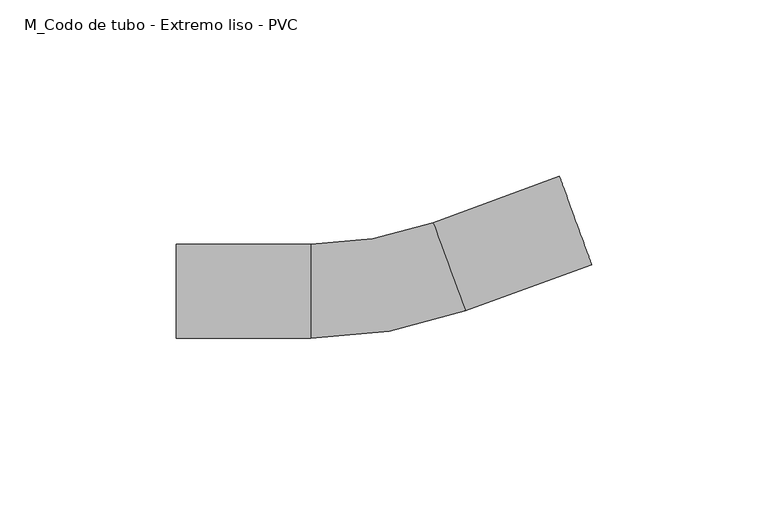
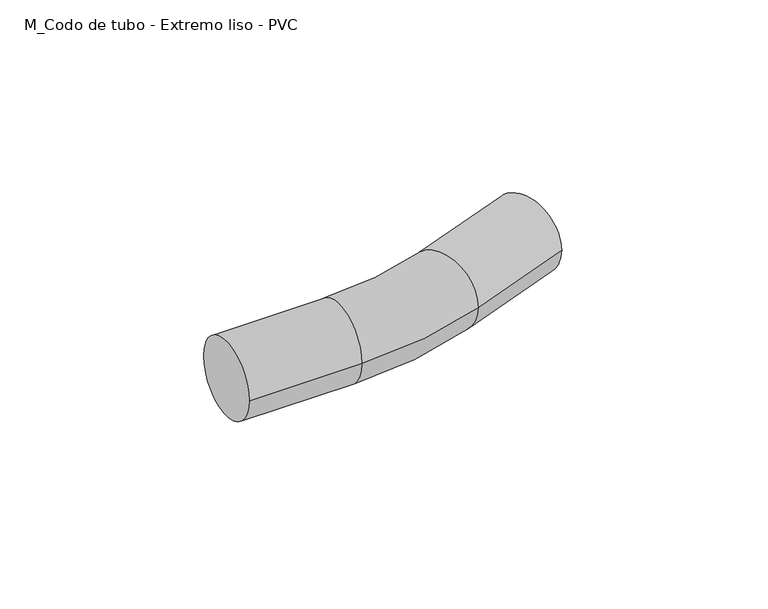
"""IFC4 building model written with IfcOpenShell, lengths in millimetres: cable carrier fitting geometry, M_Codo de tubo - Extremo liso - PVC : CODO ILUMINACION."""

from ifc_helpers import new_model, si_unit, point, frame, origin, place, context, project, spatial, circle_curve, ellipse_curve, trimmed, source, transform, mapped, element, save
from ifc_brep_helpers import plane_surface, cylinder_surface, revolved_surface, advanced_brep


def m_codo_de_tubo_extremo_liso_pvc_6f11b4e8(model_context):
    return source(origin(), model_context, "Body", "AdvancedBrep", [
        advanced_brep(
        [(-58.3640343, -13.335, 0.0), (-58.3640343, 13.335, 0.0), (-20.2640343, -13.335, 0.0), (-20.2640343, 13.335, 0.0), (14.4448226, 19.4884686, 0.0), (23.6131999, -5.5560868, 0.0), (59.3911363, 7.541595, 0.0), (50.222759, 32.5861505, 0.0)],
        [
            (0, 1, circle_curve(frame((-58.3640343, 0.0, 0.0), z_axis=(-1.0, 0.0, 0.0), x_axis=(0.0, 1.0, 0.0)), 13.335)),
            (1, 0, circle_curve(frame((-58.3640343, 0.0, 0.0), z_axis=(-1.0, 0.0, 0.0), x_axis=(0.0, 1.0, 0.0)), 13.335)),
            (0, 2),
            (2, 3, circle_curve(frame((-20.2640343, 0.0, 0.0), z_axis=(-1.0, 0.0, 0.0), x_axis=(0.0, 1.0, 0.0)), 13.335)),
            (3, 1),
            (3, 2, circle_curve(frame((-20.2640343, 0.0, 0.0), z_axis=(-1.0, 0.0, 0.0), x_axis=(0.0, 1.0, 0.0)), 13.335)),
            (4, 3, circle_curve(frame((-20.2640343, 114.3, 0.0), z_axis=(0.0, 0.0, -1.0), x_axis=(0.0, -1.0, 0.0)), 100.965)),
            (2, 5, circle_curve(frame((-20.2640343, 114.3, 0.0), z_axis=(0.0, 0.0, 1.0), x_axis=(0.0, -1.0, 0.0)), 127.635)),
            (5, 4, circle_curve(frame((19.0290112, 6.9661909, 0.0), z_axis=(-0.939053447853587, -0.3437711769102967, 0.0), x_axis=(-0.3437711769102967, 0.939053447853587, 0.0)), 13.335)),
            (4, 5, circle_curve(frame((19.0290112, 6.9661909, 0.0), z_axis=(-0.939053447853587, -0.3437711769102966, 0.0), x_axis=(-0.3437711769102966, 0.939053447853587, 0.0)), 13.335)),
            (6, 7, circle_curve(frame((54.8069476, 20.0638728, 0.0), z_axis=(0.939053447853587, 0.3437711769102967, 0.0), x_axis=(-0.3437711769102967, 0.939053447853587, 0.0)), 13.335)),
            (7, 6, circle_curve(frame((54.8069476, 20.0638728, 0.0), z_axis=(0.939053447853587, 0.3437711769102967, 0.0), x_axis=(-0.3437711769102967, 0.939053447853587, 0.0)), 13.335)),
            (5, 6),
            (7, 4),
        ],
        [
            plane_surface(frame((-58.3640343, 0.0, 0.0), z_axis=(-1.0, 0.0, 0.0), x_axis=(0.0, 0.0, 1.0))),
            cylinder_surface(frame((-58.3640343, 0.0, 0.0), z_axis=(-1.0, 0.0, 0.0), x_axis=(0.0, 1.0, 0.0)), 13.335),
            revolved_surface(trimmed(ellipse_curve(frame((-20.2640343, 0.0, 0.0), z_axis=(-1.0, 0.0, 0.0), x_axis=(0.0, 1.0, 0.0)), 13.335, 13.335), [point((-20.2640343, -13.335, 0.0))], [point((-20.2640343, 13.335, 0.0))], True, "CARTESIAN"), (-20.2640343, 114.3, 0.0), (0.0, 0.0, 1.0)),
            revolved_surface(trimmed(ellipse_curve(frame((-20.2640343, 0.0, 0.0), z_axis=(-1.0, 0.0, 0.0), x_axis=(0.0, 1.0, 0.0)), 13.335, 13.335), [point((-20.2640343, 13.335, 0.0))], [point((-20.2640343, -13.335, 0.0))], True, "CARTESIAN"), (-20.2640343, 114.3, 0.0), (0.0, 0.0, 1.0)),
            plane_surface(frame((54.8069476, 20.0638728, 0.0), z_axis=(0.939053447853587, 0.3437711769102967, 0.0), x_axis=(0.0, 0.0, 1.0))),
            cylinder_surface(frame((19.0290112, 6.9661909, 0.0), z_axis=(-0.939053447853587, -0.3437711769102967, 0.0), x_axis=(-0.3437711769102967, 0.939053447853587, 0.0)), 13.335),
        ],
        [
            (0, [[1, 2]]),
            (1, [[-1, 3, 4, 5]]),
            (1, [[-2, -5, 6, -3]]),
            (2, [[7, -4, 8, 9]]),
            (3, [[-8, -6, -7, 10]]),
            (4, [[11, 12]]),
            (5, [[-9, 13, -12, 14]]),
            (5, [[-10, -14, -11, -13]]),
        ],
    ),
    ])


if __name__ == "__main__":
    model = new_model("IFC4")
    model_context = context("Model", 3, world=origin())
    ifc_project = project(units=[si_unit("LENGTHUNIT", "METRE", prefix="MILLI")], contexts=[model_context])
    site = spatial("IfcSite", under=ifc_project)
    building = spatial("IfcBuilding", under=site)
    placement = place(None, origin())
    m_codo_de_tubo_extremo_liso_pvc_shape = m_codo_de_tubo_extremo_liso_pvc_6f11b4e8(model_context)
    element("IfcCableCarrierFitting", 1, ObjectType="M_Codo de tubo - Extremo liso - PVC : CODO ILUMINACION", at=placement, inside=building, context=model_context, shape_type="MappedRepresentation", body=[
        mapped(m_codo_de_tubo_extremo_liso_pvc_shape, transform((0.0, 0.0, 0.0), x_axis=(1.0, 0.0, 0.0), y_axis=(0.0, 1.0, 0.0), z_axis=(0.0, 0.0, 1.0))),
    ])
    save(model, "model.ifc")
